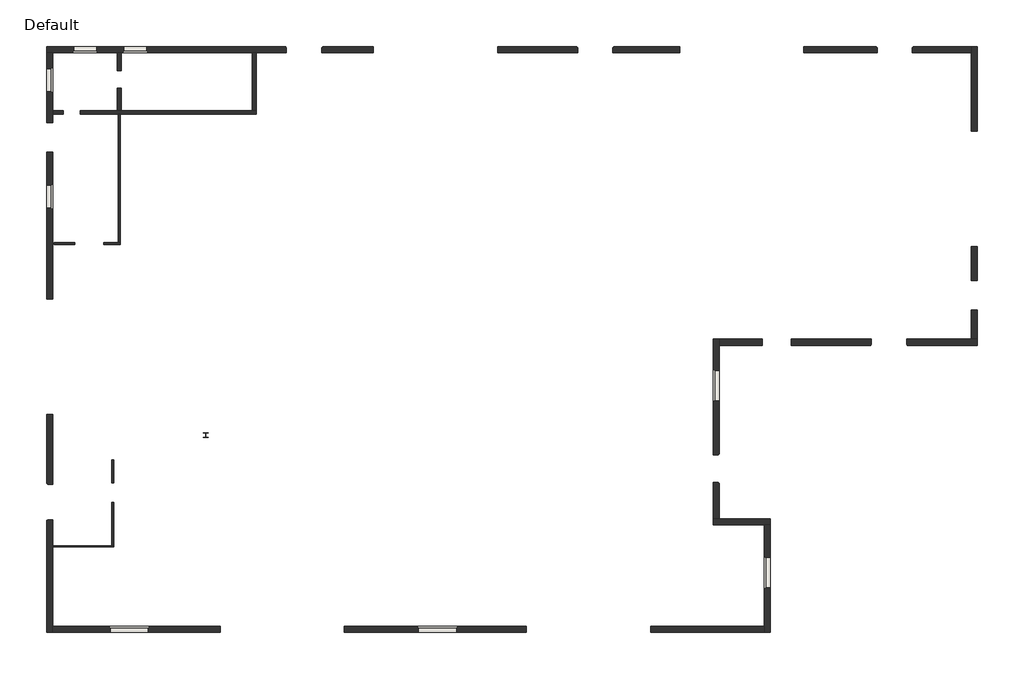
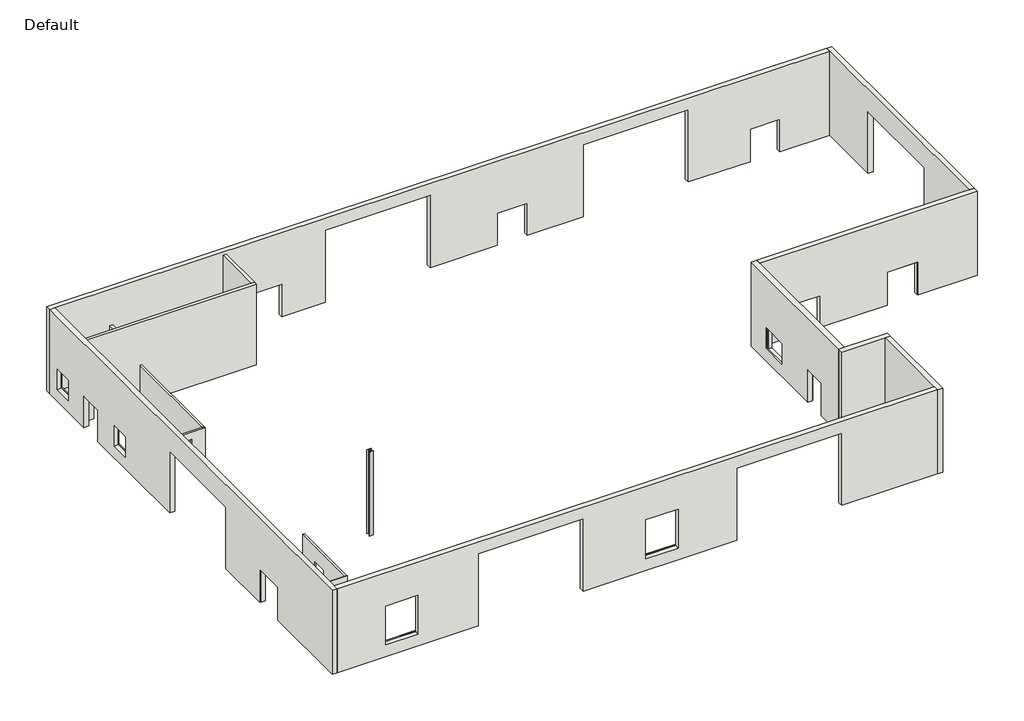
# One storey: 15 walls, 1 column.
"""IFC4 building model written with IfcOpenShell, lengths in millimetres."""

import ifcopenshell
import ifcopenshell.guid

model = None  # the IFC model being written
_history = None  # IfcOwnerHistory: only IFC2X3 demands one
_inside = {}  # id of a spatial element -> (the spatial element, [elements in it])
_under = {}  # id of a project, library or spatial element -> (it, [spatial elements below it])
_declared = {}  # id of a project -> (the project, [libraries it declares])
_typed = {}  # id of a type object -> (the type object, [elements of that type])
_made_of = {}  # id of a material, layer set ... -> (it, [elements and type objects made of it])


def new_model(schema):
    """Start an empty IFC model of exactly this schema.

    Asked for "IFC4X3", IfcOpenShell would pick the latest addendum, in which some entities
    have other attributes; the version numbers below select the first issue.
    IFC2X3 requires an IfcOwnerHistory on every rooted entity: one is made here for all.
    """
    global model, _history
    if schema == "IFC4X3":
        model = ifcopenshell.file(schema_version=(4, 3, 0, 0))
    else:
        model = ifcopenshell.file(schema=schema)
    _inside.clear()
    _under.clear()
    _declared.clear()
    _typed.clear()
    _made_of.clear()
    _history = None
    if model.schema == "IFC2X3":
        org = make("IfcOrganization", Name="unknown")
        user = make(
            "IfcPersonAndOrganization",
            ThePerson=make("IfcPerson", FamilyName="unknown"),
            TheOrganization=org,
        )
        app = make(
            "IfcApplication",
            ApplicationDeveloper=org,
            Version="unknown",
            ApplicationFullName="unknown",
            ApplicationIdentifier="unknown",
        )
        _history = make(
            "IfcOwnerHistory",
            OwningUser=user,
            OwningApplication=app,
            ChangeAction="ADDED",
            CreationDate=0,
        )
    return model


def make(cls, **values):
    """One entity of the class cls with the attributes given. An attribute that is None is left unset."""
    return model.create_entity(
        cls, **{name: value for name, value in values.items() if value is not None}
    )


def rooted(cls, **values):
    """An entity with a GlobalId (a new one), such as an element, a storey or a relation."""
    return make(cls, GlobalId=ifcopenshell.guid.new(), OwnerHistory=_history, **values)


def si_unit(unit_type, name, prefix=None):
    """IfcSIUnit, for example si_unit("LENGTHUNIT", "METRE", prefix="MILLI")."""
    return make("IfcSIUnit", UnitType=unit_type, Prefix=prefix, Name=name)


def assignment(units):
    """IfcUnitAssignment: the units of a project."""
    return None if units is None else make("IfcUnitAssignment", Units=units)


def point(xyz):
    """IfcCartesianPoint."""
    return None if xyz is None else make("IfcCartesianPoint", Coordinates=xyz)


def direction(xyz):
    """IfcDirection."""
    return None if xyz is None else make("IfcDirection", DirectionRatios=xyz)


def frame(location, z_axis=None, x_axis=None):
    """IfcAxis2Placement3D, a coordinate frame: its origin and axes. An axis left out is left unset."""
    return make(
        "IfcAxis2Placement3D",
        Location=point(location),
        Axis=direction(z_axis),
        RefDirection=direction(x_axis),
    )


def frame_2d(location, x_axis=None):
    """IfcAxis2Placement2D, a coordinate frame in the plane: its origin and x axis."""
    return make(
        "IfcAxis2Placement2D", Location=point(location), RefDirection=direction(x_axis)
    )


def origin():
    """The frame at (0, 0, 0) with its axes left unset."""
    return frame((0.0, 0.0, 0.0))


def origin_with_axes():
    """The frame at (0, 0, 0) with the z axis (0, 0, 1) and the x axis (1, 0, 0) written out."""
    return frame((0.0, 0.0, 0.0), z_axis=(0.0, 0.0, 1.0), x_axis=(1.0, 0.0, 0.0))


def place(relative_to, where):
    """IfcLocalPlacement: puts the frame where relative to a parent placement (None: the world)."""
    return make(
        "IfcLocalPlacement", PlacementRelTo=relative_to, RelativePlacement=where
    )


def context(
    kind, dimensions, precision=None, world=None, true_north=None, identifier=None
):
    """IfcGeometricRepresentationContext, for example the 3D "Model" context."""
    return make(
        "IfcGeometricRepresentationContext",
        ContextIdentifier=identifier,
        ContextType=kind,
        CoordinateSpaceDimension=dimensions,
        Precision=precision,
        WorldCoordinateSystem=world,
        TrueNorth=true_north,
    )


def project(units=None, contexts=None):
    """IfcProject with its units and contexts."""
    return rooted(
        "IfcProject",
        Name="project",
        RepresentationContexts=contexts,
        UnitsInContext=assignment(units),
    )


def spatial(cls, under=None, at=None, **own):
    """A site, building, storey or space (cls), placed at a placement, below another one or the project."""
    s = rooted(cls, ObjectPlacement=at, **own)
    if under is not None:
        _under.setdefault(under.id(), (under, []))[1].append(s)
    return s


def polyline(points):
    """IfcPolyline through the points."""
    return make("IfcPolyline", Points=[point(p) for p in points])


def circle_curve(where, radius):
    """IfcCircle in the frame where."""
    return make("IfcCircle", Position=where, Radius=radius)


def trimmed(basis, trim1, trim2, sense, master):
    """IfcTrimmedCurve: the piece of a basis curve between two trims."""
    return make(
        "IfcTrimmedCurve",
        BasisCurve=basis,
        Trim1=trim1,
        Trim2=trim2,
        SenseAgreement=sense,
        MasterRepresentation=master,
    )


def segment(curve, same_sense, transition):
    """IfcCompositeCurveSegment."""
    return make(
        "IfcCompositeCurveSegment",
        Transition=transition,
        SameSense=same_sense,
        ParentCurve=curve,
    )


def composite_curve(segments, self_intersect=None):
    """IfcCompositeCurve: segments joined end to end."""
    return make("IfcCompositeCurve", Segments=segments, SelfIntersect=self_intersect)


def outline(outer, holes=None, kind="AREA"):
    """IfcArbitraryClosedProfileDef: a profile drawn as a closed curve; with holes, ...WithVoids."""
    if holes is None:
        return make("IfcArbitraryClosedProfileDef", ProfileType=kind, OuterCurve=outer)
    return make(
        "IfcArbitraryProfileDefWithVoids",
        ProfileType=kind,
        OuterCurve=outer,
        InnerCurves=holes,
    )


def extrude(swept, where, along, depth):
    """IfcExtrudedAreaSolid: the profile swept, set in the frame where, extruded along a direction by depth."""
    return make(
        "IfcExtrudedAreaSolid",
        SweptArea=swept,
        Position=where,
        ExtrudedDirection=direction(along),
        Depth=depth,
    )


def faces_of(points, faces, orient=None, outer=None):
    """IfcFace entities. A face is a list of loops; a loop is a list of indices into points, from 0.

    orient and outer hold one flag for each loop. By default every Orientation is true, the
    first loop of a face is its IfcFaceOuterBound and the others are IfcFaceBound.
    """
    made = []
    for i, loops in enumerate(faces):
        bounds = []
        for j, loop in enumerate(loops):
            is_outer = j == 0 if outer is None else outer[i][j]
            bounds.append(
                make(
                    "IfcFaceOuterBound" if is_outer else "IfcFaceBound",
                    Bound=make("IfcPolyLoop", Polygon=[points[k] for k in loop]),
                    Orientation=True if orient is None else orient[i][j],
                )
            )
        made.append(make("IfcFace", Bounds=bounds))
    return made


def faceted_brep(points, faces, orient=None, outer=None, voids=None):
    """IfcFacetedBrep: a solid bounded by flat faces; with voids (closed shells), ...WithVoids."""
    shared = [point(p) for p in points]
    hull = make("IfcClosedShell", CfsFaces=faces_of(shared, faces, orient, outer))
    if voids is None:
        return make("IfcFacetedBrep", Outer=hull)
    return make(
        "IfcFacetedBrepWithVoids",
        Outer=hull,
        Voids=[
            make(cls, CfsFaces=faces_of(shared, fs, o, b)) for cls, fs, o, b in voids
        ],
    )


def shape(context_of_items, identifier, shape_type, items):
    """IfcShapeRepresentation: the items that make up one representation, for example the "Body"."""
    return make(
        "IfcShapeRepresentation",
        ContextOfItems=context_of_items,
        RepresentationIdentifier=identifier,
        RepresentationType=shape_type,
        Items=items,
    )


def source(mapping_origin, context_of_items, identifier, shape_type, items):
    """IfcRepresentationMap: a shape defined once, which mapped items show again and again."""
    return make(
        "IfcRepresentationMap",
        MappingOrigin=mapping_origin,
        MappedRepresentation=shape(context_of_items, identifier, shape_type, items),
    )


def transform(
    local_origin,
    x_axis=None,
    y_axis=None,
    z_axis=None,
    scale=None,
    scale2=None,
    scale3=None,
    uniform=True,
):
    """IfcCartesianTransformationOperator3D, or its non-uniform kind. x_axis, y_axis, z_axis: its Axis1, 2, 3."""
    if uniform:
        return make(
            "IfcCartesianTransformationOperator3D",
            Axis1=direction(x_axis),
            Axis2=direction(y_axis),
            LocalOrigin=point(local_origin),
            Scale=scale,
            Axis3=direction(z_axis),
        )
    return make(
        "IfcCartesianTransformationOperator3DnonUniform",
        Axis1=direction(x_axis),
        Axis2=direction(y_axis),
        LocalOrigin=point(local_origin),
        Scale=scale,
        Axis3=direction(z_axis),
        Scale2=scale2,
        Scale3=scale3,
    )


def mapped(mapping_source, mapping_target):
    """IfcMappedItem: shows the shape of a source again, moved by a transform."""
    return make(
        "IfcMappedItem", MappingSource=mapping_source, MappingTarget=mapping_target
    )


def made_of(thing, what):
    """Note that an element or type object is made of a material, layer set ...; save() writes the relation."""
    if what is not None:
        _made_of.setdefault(what.id(), (what, []))[1].append(thing)
    return thing


def element(
    cls,
    number,
    at=None,
    inside=None,
    cuts=None,
    type_object=None,
    material=None,
    context=None,
    identifier="Body",
    shape_type=None,
    held_by="IfcProductDefinitionShape",
    body=None,
    shapes=None,
    **own,
):
    """One element of the class cls, such as IfcWall. Its Tag is "e" and its number.

    at: its placement. inside: the storey or other place that contains it. cuts: it is an
    opening in that element (IfcRelVoidsElement). A single representation is given by context,
    identifier, shape_type and body (its items); several are given by shapes. held_by: the class
    of the entity that holds the representations. save() writes the other relations.
    """
    e = rooted(cls, Tag="e%d" % number, ObjectPlacement=at, **own)
    if body is not None:
        shapes = [shape(context, identifier, shape_type, body)]
    if shapes is not None:
        e.Representation = make(held_by, Representations=shapes)
    if inside is not None:
        _inside.setdefault(inside.id(), (inside, []))[1].append(e)
    if cuts is not None:
        rooted(
            "IfcRelVoidsElement", RelatingBuildingElement=cuts, RelatedOpeningElement=e
        )
    if type_object is not None:
        _typed.setdefault(type_object.id(), (type_object, []))[1].append(e)
    return made_of(e, material)


def aggregate(whole, parts):
    """IfcRelAggregates: a whole, such as a stair, and the parts it consists of."""
    return rooted("IfcRelAggregates", RelatingObject=whole, RelatedObjects=parts)


def save(model, path):
    """Write the relations noted so far, then the file.

    IfcRelAggregates (storeys below a building ...), IfcRelContainedInSpatialStructure (elements
    in a storey), IfcRelDefinesByType, IfcRelAssociatesMaterial and IfcRelDeclares: one each for
    every whole, place, type object, material and project.
    """
    for whole, parts in _under.values():
        aggregate(whole, parts)
    for where, things in _inside.values():
        rooted(
            "IfcRelContainedInSpatialStructure",
            RelatedElements=things,
            RelatingStructure=where,
        )
    for kind, things in _typed.values():
        rooted("IfcRelDefinesByType", RelatedObjects=things, RelatingType=kind)
    for what, things in _made_of.values():
        rooted("IfcRelAssociatesMaterial", RelatedObjects=things, RelatingMaterial=what)
    for by, libraries in _declared.values():
        rooted("IfcRelDeclares", RelatingContext=by, RelatedDefinitions=libraries)
    model.write(path)


def hea500_374ea02b(model_context):
    return source(origin(), model_context, "Body", "SweptSolid", [
        extrude(outline(composite_curve([segment(polyline([(130.0, 125.0), (130.0, 112.5), (27.75, 112.5)]), True, "CONTINUOUS"), segment(trimmed(circle_curve(frame_2d((27.75, 88.5)), 24.0), [point((27.75, 112.5))], [point((3.75, 88.5))], True, "CARTESIAN"), True, "CONTINUOUS"), segment(polyline([(3.75, 88.5), (3.75, -88.5)]), True, "CONTINUOUS"), segment(trimmed(circle_curve(frame_2d((27.75, -88.5)), 24.0), [point((3.75, -88.5))], [point((27.75, -112.5))], True, "CARTESIAN"), True, "CONTINUOUS"), segment(polyline([(27.75, -112.5), (130.0, -112.5), (130.0, -125.0), (-130.0, -125.0), (-130.0, -112.5), (-27.75, -112.5)]), True, "CONTINUOUS"), segment(trimmed(circle_curve(frame_2d((-27.75, -88.5)), 24.0), [point((-27.75, -112.5))], [point((-3.75, -88.5))], True, "CARTESIAN"), True, "CONTINUOUS"), segment(polyline([(-3.75, -88.5), (-3.75, 88.5)]), True, "CONTINUOUS"), segment(trimmed(circle_curve(frame_2d((-27.75, 88.5)), 24.0), [point((-3.75, 88.5))], [point((-27.75, 112.5))], True, "CARTESIAN"), True, "CONTINUOUS"), segment(polyline([(-27.75, 112.5), (-130.0, 112.5), (-130.0, 125.0), (130.0, 125.0)]), True, "CONTINUOUS")], self_intersect=False)), origin_with_axes(), (0.0, 0.0, 1.0), 5500.0),
    ])


model = new_model("IFC4")

# Units and contexts
model_context = context("Model", 3, world=origin())
ifc_project = project(units=[si_unit("LENGTHUNIT", "METRE", prefix="MILLI")], contexts=[model_context])

# Site, building, storey
site = spatial("IfcSite", under=ifc_project)
building = spatial("IfcBuilding", under=site)
storey = spatial("IfcBuildingStorey", under=building, Name="Default", Elevation=0.0)

# Column
placement = place(None, origin())
hea500_shape = hea500_374ea02b(model_context)
element("IfcColumn", 1, ObjectType="Poteau HE-A : HEA500", at=placement, inside=storey, context=model_context, shape_type="MappedRepresentation", body=[
    mapped(hea500_shape, transform((8000.0, 10000.0, 0.0), x_axis=(1.0, 0.0, 0.0), y_axis=(0.0, 1.0, 0.0), z_axis=(0.0, 0.0, 1.0))),
])

# Walls
element("IfcWall", 2, ObjectType="Ext. Parpaing 20 + Isolant ext", at=placement, inside=storey, context=model_context, shape_type="Brep", body=[
    faceted_brep([(-310.0, -310.0, 5500.0), (-310.0, 29990.0, 5500.0), (-310.0, 29990.0, 0.0), (-310.0, 26316.9923628, 0.0), (-310.0, 26316.9923628, 2060.0), (-310.0, 24796.9923628, 2060.0), (-310.0, 24796.9923628, 0.0), (-310.0, 17118.0018852, 0.0), (-310.0, 17118.0018852, 4015.0), (-310.0, 11088.0018852, 4015.0), (-310.0, 11088.0018852, 0.0), (-310.0, 7468.0018852, 0.0), (-310.0, 7468.0018852, 2150.0), (-310.0, 5538.0018852, 2150.0), (-310.0, 5538.0018852, 0.0), (-310.0, -310.0, 0.0), (-310.0, 21856.9923628, 2100.0), (-310.0, 21856.9923628, 759.7749835), (-310.0, 23056.9923628, 759.7749835), (-310.0, 23056.9923628, 2100.0), (-310.0, 27956.9923628, 2100.0), (-310.0, 27956.9923628, 759.7749835), (-310.0, 29156.9923628, 759.7749835), (-310.0, 29156.9923628, 2100.0), (10.0, 29990.0, 5500.0), (10.0, 10.0, 5500.0), (10.0, -310.0, 5500.0), (10.0, -310.0, 0.0), (10.0, 10.0, 0.0), (10.0, 4163.0018852, 0.0), (10.0, 4203.0018852, 0.0), (10.0, 5578.0018852, 0.0), (10.0, 5578.0018852, 2110.0), (10.0, 7428.0018852, 2110.0), (10.0, 7428.0018852, 0.0), (10.0, 11088.0018852, 0.0), (10.0, 11088.0018852, 4015.0), (10.0, 17118.0018852, 4015.0), (10.0, 17118.0018852, 0.0), (10.0, 24796.9923628, 0.0), (10.0, 24796.9923628, 2060.0), (10.0, 26316.9923628, 2060.0), (10.0, 26316.9923628, 0.0), (10.0, 26765.9166667, 0.0), (10.0, 26965.9166667, 0.0), (10.0, 29990.0, 0.0), (10.0, 23106.9923628, 800.0), (10.0, 21806.9923628, 800.0), (10.0, 21806.9923628, 2150.0), (10.0, 23106.9923628, 2150.0), (10.0, 29206.9923628, 800.0), (10.0, 27906.9923628, 800.0), (10.0, 27906.9923628, 2150.0), (10.0, 29206.9923628, 2150.0), (-260.0, 5538.0018852, 0.0), (-260.0, 5578.0018852, 0.0), (-260.0, 7428.0018852, 0.0), (-260.0, 7468.0018852, 0.0), (-70.0, 21856.9923628, 800.0), (-70.0, 21856.9923628, 785.0), (-90.0, 21856.9923628, 2100.0), (-90.0, 21856.9923628, 800.0), (-70.0, 23056.9923628, 785.0), (-70.0, 23056.9923628, 800.0), (-90.0, 23056.9923628, 800.0), (-90.0, 23056.9923628, 2100.0), (-90.0, 21846.9923628, 800.0), (-60.0, 21846.9923628, 800.0), (-60.0, 21806.9923628, 800.0), (-60.0, 23106.9923628, 800.0), (-60.0, 23066.9923628, 800.0), (-90.0, 23066.9923628, 800.0), (-60.0, 21806.9923628, 2150.0), (-60.0, 21846.9923628, 2110.0), (-60.0, 23066.9923628, 2110.0), (-60.0, 23106.9923628, 2150.0), (-90.0, 21846.9923628, 2110.0), (-90.0, 23066.9923628, 2110.0), (-70.0, 27956.9923628, 800.0), (-70.0, 27956.9923628, 785.0), (-90.0, 27956.9923628, 2100.0), (-90.0, 27956.9923628, 800.0), (-70.0, 29156.9923628, 785.0), (-70.0, 29156.9923628, 800.0), (-90.0, 29156.9923628, 800.0), (-90.0, 29156.9923628, 2100.0), (-90.0, 27946.9923628, 800.0), (-60.0, 27946.9923628, 800.0), (-60.0, 27906.9923628, 800.0), (-60.0, 29206.9923628, 800.0), (-60.0, 29166.9923628, 800.0), (-90.0, 29166.9923628, 800.0), (-60.0, 27906.9923628, 2150.0), (-60.0, 27946.9923628, 2110.0), (-60.0, 29166.9923628, 2110.0), (-60.0, 29206.9923628, 2150.0), (-90.0, 27946.9923628, 2110.0), (-90.0, 29166.9923628, 2110.0), (-260.0, 5578.0018852, 2110.0), (-260.0, 7428.0018852, 2110.0), (-260.0, 5538.0018852, 2150.0), (-260.0, 7468.0018852, 2150.0)], [[[0, 1, 2, 3, 4, 5, 6, 7, 8, 9, 10, 11, 12, 13, 14, 15], [16, 17, 18, 19], [20, 21, 22, 23]], [[24, 25, 26, 27, 28, 29, 30, 31, 32, 33, 34, 35, 36, 37, 38, 39, 40, 41, 42, 43, 44, 45], [46, 47, 48, 49], [50, 51, 52, 53]], [[2, 45, 44, 43, 42, 3]], [[27, 15, 14, 54, 55, 31, 30, 29, 28]], [[6, 39, 38, 7]], [[34, 56, 57, 11, 10, 35]], [[1, 0, 26, 25, 24]], [[2, 1, 24, 45]], [[0, 15, 27, 26]], [[41, 4, 3, 42]], [[4, 41, 40, 5]], [[5, 40, 39, 6]], [[58, 59, 17, 16, 60, 61]], [[62, 63, 64, 65, 19, 18]], [[59, 62, 18, 17]], [[59, 58, 63, 62]], [[16, 19, 65, 60]], [[63, 58, 61, 66, 67, 68, 47, 46, 69, 70, 71, 64]], [[47, 68, 72, 48]], [[68, 67, 73, 74, 70, 69, 75, 72]], [[67, 66, 76, 73]], [[66, 61, 60, 65, 64, 71, 77, 76]], [[48, 72, 75, 49]], [[74, 73, 76, 77]], [[75, 69, 46, 49]], [[70, 74, 77, 71]], [[78, 79, 21, 20, 80, 81]], [[82, 83, 84, 85, 23, 22]], [[79, 82, 22, 21]], [[79, 78, 83, 82]], [[20, 23, 85, 80]], [[83, 78, 81, 86, 87, 88, 51, 50, 89, 90, 91, 84]], [[51, 88, 92, 52]], [[88, 87, 93, 94, 90, 89, 95, 92]], [[87, 86, 96, 93]], [[86, 81, 80, 85, 84, 91, 97, 96]], [[52, 92, 95, 53]], [[94, 93, 96, 97]], [[95, 89, 50, 53]], [[90, 94, 97, 91]], [[98, 99, 33, 32]], [[55, 98, 32, 31]], [[99, 56, 34, 33]], [[99, 98, 55, 54, 100, 101, 57, 56]], [[100, 54, 14, 13]], [[101, 100, 13, 12]], [[57, 101, 12, 11]], [[8, 37, 36, 9]], [[9, 36, 35, 10]], [[37, 8, 7, 38]]]),
])
element("IfcWall", 3, ObjectType="Ext. Parpaing 20 + Isolant ext", at=placement, inside=storey, context=model_context, shape_type="Brep", body=[
    faceted_brep([(47990.0, 15010.0, 5500.0), (47990.0, 29990.0, 5500.0), (47990.0, 30310.0, 5500.0), (47990.0, 30310.0, 0.0), (47990.0, 29990.0, 0.0), (47990.0, 25890.0, 0.0), (47990.0, 25890.0, 4015.0), (47990.0, 19860.0, 4015.0), (47990.0, 19860.0, 0.0), (47990.0, 18070.0, 0.0), (47990.0, 18070.0, 2060.0), (47990.0, 16550.0, 2060.0), (47990.0, 16550.0, 0.0), (47990.0, 15010.0, 0.0), (48310.0, 30310.0, 5500.0), (48310.0, 15010.0, 5500.0), (48310.0, 15010.0, 0.0), (48310.0, 16550.0, 0.0), (48310.0, 16550.0, 2060.0), (48310.0, 18070.0, 2060.0), (48310.0, 18070.0, 0.0), (48310.0, 19860.0, 0.0), (48310.0, 19860.0, 4015.0), (48310.0, 25890.0, 4015.0), (48310.0, 25890.0, 0.0), (48310.0, 30310.0, 0.0)], [[[0, 1, 2, 3, 4, 5, 6, 7, 8, 9, 10, 11, 12, 13]], [[14, 15, 16, 17, 18, 19, 20, 21, 22, 23, 24, 25]], [[16, 13, 12, 17]], [[3, 25, 24, 5, 4]], [[8, 21, 20, 9]], [[2, 1, 0, 15, 14]], [[0, 13, 16, 15]], [[3, 2, 14, 25]], [[22, 7, 6, 23]], [[23, 6, 5, 24]], [[7, 22, 21, 8]], [[11, 18, 17, 12]], [[18, 11, 10, 19]], [[19, 10, 9, 20]]]),
])
element("IfcWall", 4, ObjectType="Ext. Parpaing 20 + Isolant ext", at=placement, inside=storey, context=model_context, shape_type="Brep", body=[
    faceted_brep([(10.0, 10.0, 5500.0), (37169.4829967, 10.0, 5500.0), (37169.4829967, 10.0, 0.0), (31250.0, 10.0, 0.0), (31250.0, 10.0, 4728.16086), (24750.0, 10.0, 4728.16086), (24750.0, 10.0, 0.0), (15250.0, 10.0, 0.0), (15250.0, 10.0, 4728.16086), (8750.0, 10.0, 4728.16086), (8750.0, 10.0, 0.0), (10.0, 10.0, 0.0), (2960.0, 10.0, 800.0), (5060.0, 10.0, 800.0), (5060.0, 10.0, 3350.0), (2960.0, 10.0, 3350.0), (19060.0, 10.0, 800.0), (21160.0, 10.0, 800.0), (21160.0, 10.0, 3350.0), (19060.0, 10.0, 3350.0), (37169.4829967, -310.0, 5500.0), (10.0, -310.0, 5500.0), (10.0, -310.0, 0.0), (8750.0, -310.0, 0.0), (8750.0, -310.0, 4728.16086), (15250.0, -310.0, 4728.16086), (15250.0, -310.0, 0.0), (24750.0, -310.0, 0.0), (24750.0, -310.0, 4728.16086), (31250.0, -310.0, 4728.16086), (31250.0, -310.0, 0.0), (37169.4829967, -310.0, 0.0), (5010.0, -310.0, 3300.0), (5010.0, -310.0, 759.7749835), (3010.0, -310.0, 759.7749835), (3010.0, -310.0, 3300.0), (21110.0, -310.0, 3300.0), (21110.0, -310.0, 759.7749835), (19110.0, -310.0, 759.7749835), (19110.0, -310.0, 3300.0), (5010.0, -70.0, 800.0), (5010.0, -70.0, 785.0), (5010.0, -90.0, 3300.0), (5010.0, -90.0, 800.0), (3010.0, -70.0, 785.0), (3010.0, -70.0, 800.0), (3010.0, -90.0, 800.0), (3010.0, -90.0, 3300.0), (5020.0, -90.0, 800.0), (5020.0, -60.0, 800.0), (5060.0, -60.0, 800.0), (2960.0, -60.0, 800.0), (3000.0, -60.0, 800.0), (3000.0, -90.0, 800.0), (5060.0, -60.0, 3350.0), (5020.0, -60.0, 3310.0), (3000.0, -60.0, 3310.0), (2960.0, -60.0, 3350.0), (5020.0, -90.0, 3310.0), (3000.0, -90.0, 3310.0), (21110.0, -70.0, 800.0), (21110.0, -70.0, 785.0), (21110.0, -90.0, 3300.0), (21110.0, -90.0, 800.0), (19110.0, -70.0, 785.0), (19110.0, -70.0, 800.0), (19110.0, -90.0, 800.0), (19110.0, -90.0, 3300.0), (21120.0, -90.0, 800.0), (21120.0, -60.0, 800.0), (21160.0, -60.0, 800.0), (19060.0, -60.0, 800.0), (19100.0, -60.0, 800.0), (19100.0, -90.0, 800.0), (21160.0, -60.0, 3350.0), (21120.0, -60.0, 3310.0), (19100.0, -60.0, 3310.0), (19060.0, -60.0, 3350.0), (21120.0, -90.0, 3310.0), (19100.0, -90.0, 3310.0)], [[[0, 1, 2, 3, 4, 5, 6, 7, 8, 9, 10, 11], [12, 13, 14, 15], [16, 17, 18, 19]], [[20, 21, 22, 23, 24, 25, 26, 27, 28, 29, 30, 31], [32, 33, 34, 35], [36, 37, 38, 39]], [[2, 31, 30, 3]], [[22, 11, 10, 23]], [[26, 7, 6, 27]], [[1, 0, 21, 20]], [[2, 1, 20, 31]], [[0, 11, 22, 21]], [[40, 41, 33, 32, 42, 43]], [[44, 45, 46, 47, 35, 34]], [[41, 44, 34, 33]], [[41, 40, 45, 44]], [[32, 35, 47, 42]], [[45, 40, 43, 48, 49, 50, 13, 12, 51, 52, 53, 46]], [[13, 50, 54, 14]], [[50, 49, 55, 56, 52, 51, 57, 54]], [[49, 48, 58, 55]], [[48, 43, 42, 47, 46, 53, 59, 58]], [[14, 54, 57, 15]], [[56, 55, 58, 59]], [[57, 51, 12, 15]], [[52, 56, 59, 53]], [[9, 24, 23, 10]], [[24, 9, 8, 25]], [[25, 8, 7, 26]], [[60, 61, 37, 36, 62, 63]], [[64, 65, 66, 67, 39, 38]], [[61, 64, 38, 37]], [[61, 60, 65, 64]], [[36, 39, 67, 62]], [[65, 60, 63, 68, 69, 70, 17, 16, 71, 72, 73, 66]], [[17, 70, 74, 18]], [[70, 69, 75, 76, 72, 71, 77, 74]], [[69, 68, 78, 75]], [[68, 63, 62, 67, 66, 73, 79, 78]], [[18, 74, 77, 19]], [[76, 75, 78, 79]], [[77, 71, 16, 19]], [[72, 76, 79, 73]], [[5, 28, 27, 6]], [[28, 5, 4, 29]], [[29, 4, 3, 30]]]),
])
element("IfcWall", 5, ObjectType="Ext. Parpaing 20 + Isolant ext", at=placement, inside=storey, context=model_context, shape_type="Brep", body=[
    faceted_brep([(-310.0, 30310.0, 5500.0), (47990.0, 30310.0, 5500.0), (47990.0, 30310.0, 0.0), (44955.0, 30310.0, 0.0), (44955.0, 30310.0, 2150.0), (43025.0, 30310.0, 2150.0), (43025.0, 30310.0, 0.0), (39250.0, 30310.0, 0.0), (39250.0, 30310.0, 4728.16086), (32750.0, 30310.0, 4728.16086), (32750.0, 30310.0, 0.0), (29315.0, 30310.0, 0.0), (29315.0, 30310.0, 2150.0), (27385.0, 30310.0, 2150.0), (27385.0, 30310.0, 0.0), (23250.0, 30310.0, 0.0), (23250.0, 30310.0, 4728.16086), (16750.0, 30310.0, 4728.16086), (16750.0, 30310.0, 0.0), (14104.1961953, 30310.0, 0.0), (14104.1961953, 30310.0, 2150.0), (12174.1961953, 30310.0, 2150.0), (12174.1961953, 30310.0, 0.0), (-310.0, 30310.0, 0.0), (1100.2891615, 30310.0, 2100.0), (1100.2891615, 30310.0, 759.7749835), (2300.2891615, 30310.0, 759.7749835), (2300.2891615, 30310.0, 2100.0), (3730.578323, 30310.0, 2100.0), (3730.578323, 30310.0, 759.7749835), (4930.578323, 30310.0, 759.7749835), (4930.578323, 30310.0, 2100.0), (47990.0, 29990.0, 5500.0), (10.0, 29990.0, 5500.0), (-310.0, 29990.0, 5500.0), (-310.0, 29990.0, 0.0), (10.0, 29990.0, 0.0), (3390.578323, 29990.0, 0.0), (3590.578323, 29990.0, 0.0), (10439.1961953, 29990.0, 0.0), (10639.1961953, 29990.0, 0.0), (12214.1961953, 29990.0, 0.0), (12214.1961953, 29990.0, 2110.0), (14064.1961953, 29990.0, 2110.0), (14064.1961953, 29990.0, 0.0), (16750.0, 29990.0, 0.0), (16750.0, 29990.0, 4728.16086), (23250.0, 29990.0, 4728.16086), (23250.0, 29990.0, 0.0), (27425.0, 29990.0, 0.0), (27425.0, 29990.0, 2110.0), (29275.0, 29990.0, 2110.0), (29275.0, 29990.0, 0.0), (32750.0, 29990.0, 0.0), (32750.0, 29990.0, 4728.16086), (39250.0, 29990.0, 4728.16086), (39250.0, 29990.0, 0.0), (43065.0, 29990.0, 0.0), (43065.0, 29990.0, 2110.0), (44915.0, 29990.0, 2110.0), (44915.0, 29990.0, 0.0), (47990.0, 29990.0, 0.0), (2350.2891615, 29990.0, 800.0), (1050.2891615, 29990.0, 800.0), (1050.2891615, 29990.0, 2150.0), (2350.2891615, 29990.0, 2150.0), (4980.578323, 29990.0, 800.0), (3680.578323, 29990.0, 800.0), (3680.578323, 29990.0, 2150.0), (4980.578323, 29990.0, 2150.0), (44915.0, 30260.0, 0.0), (44955.0, 30260.0, 0.0), (12174.1961953, 30260.0, 0.0), (12214.1961953, 30260.0, 0.0), (14064.1961953, 30260.0, 0.0), (14104.1961953, 30260.0, 0.0), (27385.0, 30260.0, 0.0), (27425.0, 30260.0, 0.0), (29275.0, 30260.0, 0.0), (29315.0, 30260.0, 0.0), (43025.0, 30260.0, 0.0), (43065.0, 30260.0, 0.0), (1100.2891615, 30070.0, 800.0), (1100.2891615, 30070.0, 785.0), (1100.2891615, 30090.0, 2100.0), (1100.2891615, 30090.0, 800.0), (2300.2891615, 30070.0, 785.0), (2300.2891615, 30070.0, 800.0), (2300.2891615, 30090.0, 800.0), (2300.2891615, 30090.0, 2100.0), (1090.2891615, 30090.0, 800.0), (1090.2891615, 30060.0, 800.0), (1050.2891615, 30060.0, 800.0), (2350.2891615, 30060.0, 800.0), (2310.2891615, 30060.0, 800.0), (2310.2891615, 30090.0, 800.0), (1050.2891615, 30060.0, 2150.0), (1090.2891615, 30060.0, 2110.0), (2310.2891615, 30060.0, 2110.0), (2350.2891615, 30060.0, 2150.0), (1090.2891615, 30090.0, 2110.0), (2310.2891615, 30090.0, 2110.0), (3730.578323, 30070.0, 800.0), (3730.578323, 30070.0, 785.0), (3730.578323, 30090.0, 2100.0), (3730.578323, 30090.0, 800.0), (4930.578323, 30070.0, 785.0), (4930.578323, 30070.0, 800.0), (4930.578323, 30090.0, 800.0), (4930.578323, 30090.0, 2100.0), (3720.578323, 30090.0, 800.0), (3720.578323, 30060.0, 800.0), (3680.578323, 30060.0, 800.0), (4980.578323, 30060.0, 800.0), (4940.578323, 30060.0, 800.0), (4940.578323, 30090.0, 800.0), (3680.578323, 30060.0, 2150.0), (3720.578323, 30060.0, 2110.0), (4940.578323, 30060.0, 2110.0), (4980.578323, 30060.0, 2150.0), (3720.578323, 30090.0, 2110.0), (4940.578323, 30090.0, 2110.0), (43065.0, 30260.0, 2110.0), (44915.0, 30260.0, 2110.0), (43025.0, 30260.0, 2150.0), (44955.0, 30260.0, 2150.0), (27425.0, 30260.0, 2110.0), (29275.0, 30260.0, 2110.0), (27385.0, 30260.0, 2150.0), (29315.0, 30260.0, 2150.0), (12214.1961953, 30260.0, 2110.0), (14064.1961953, 30260.0, 2110.0), (12174.1961953, 30260.0, 2150.0), (14104.1961953, 30260.0, 2150.0)], [[[0, 1, 2, 3, 4, 5, 6, 7, 8, 9, 10, 11, 12, 13, 14, 15, 16, 17, 18, 19, 20, 21, 22, 23], [24, 25, 26, 27], [28, 29, 30, 31]], [[32, 33, 34, 35, 36, 37, 38, 39, 40, 41, 42, 43, 44, 45, 46, 47, 48, 49, 50, 51, 52, 53, 54, 55, 56, 57, 58, 59, 60, 61], [62, 63, 64, 65], [66, 67, 68, 69]], [[2, 61, 60, 70, 71, 3]], [[35, 23, 22, 72, 73, 41, 40, 39, 38, 37, 36]], [[18, 45, 44, 74, 75, 19]], [[48, 15, 14, 76, 77, 49]], [[10, 53, 52, 78, 79, 11]], [[56, 7, 6, 80, 81, 57]], [[1, 0, 34, 33, 32]], [[2, 1, 32, 61]], [[0, 23, 35, 34]], [[82, 83, 25, 24, 84, 85]], [[86, 87, 88, 89, 27, 26]], [[83, 86, 26, 25]], [[83, 82, 87, 86]], [[24, 27, 89, 84]], [[87, 82, 85, 90, 91, 92, 63, 62, 93, 94, 95, 88]], [[63, 92, 96, 64]], [[92, 91, 97, 98, 94, 93, 99, 96]], [[91, 90, 100, 97]], [[90, 85, 84, 89, 88, 95, 101, 100]], [[64, 96, 99, 65]], [[98, 97, 100, 101]], [[99, 93, 62, 65]], [[94, 98, 101, 95]], [[102, 103, 29, 28, 104, 105]], [[106, 107, 108, 109, 31, 30]], [[103, 106, 30, 29]], [[103, 102, 107, 106]], [[28, 31, 109, 104]], [[107, 102, 105, 110, 111, 112, 67, 66, 113, 114, 115, 108]], [[67, 112, 116, 68]], [[112, 111, 117, 118, 114, 113, 119, 116]], [[111, 110, 120, 117]], [[110, 105, 104, 109, 108, 115, 121, 120]], [[68, 116, 119, 69]], [[118, 117, 120, 121]], [[119, 113, 66, 69]], [[114, 118, 121, 115]], [[17, 46, 45, 18]], [[46, 17, 16, 47]], [[47, 16, 15, 48]], [[9, 54, 53, 10]], [[54, 9, 8, 55]], [[55, 8, 7, 56]], [[122, 123, 59, 58]], [[81, 122, 58, 57]], [[123, 70, 60, 59]], [[123, 122, 81, 80, 124, 125, 71, 70]], [[124, 80, 6, 5]], [[125, 124, 5, 4]], [[71, 125, 4, 3]], [[126, 127, 51, 50]], [[77, 126, 50, 49]], [[127, 78, 52, 51]], [[127, 126, 77, 76, 128, 129, 79, 78]], [[128, 76, 14, 13]], [[129, 128, 13, 12]], [[79, 129, 12, 11]], [[130, 131, 43, 42]], [[73, 130, 42, 41]], [[131, 74, 44, 43]], [[131, 130, 73, 72, 132, 133, 75, 74]], [[132, 72, 22, 21]], [[133, 132, 21, 20]], [[75, 133, 20, 19]]]),
])
element("IfcWall", 6, ObjectType="Ext. Parpaing 20 + Isolant ext", at=placement, inside=storey, context=model_context, shape_type="Brep", body=[
    faceted_brep([(34498.36989, 5627.0803084, 5500.0), (34498.36989, 15010.0, 5500.0), (34498.36989, 15010.0, 0.0), (34498.36989, 8966.4216335, 0.0), (34498.36989, 8966.4216335, 2110.0), (34498.36989, 7516.4216335, 2110.0), (34498.36989, 7516.4216335, 0.0), (34498.36989, 5627.0803084, 0.0), (34498.36989, 11740.0, 800.0), (34498.36989, 13440.0, 800.0), (34498.36989, 13440.0, 2150.0), (34498.36989, 11740.0, 2150.0), (34818.36989, 15010.0, 5500.0), (34818.36989, 14690.0, 5500.0), (34818.36989, 5627.0803084, 5500.0), (34818.36989, 5627.0803084, 0.0), (34818.36989, 7476.4216335, 0.0), (34818.36989, 7476.4216335, 2150.0), (34818.36989, 9006.4216335, 2150.0), (34818.36989, 9006.4216335, 0.0), (34818.36989, 14690.0, 0.0), (34818.36989, 15010.0, 0.0), (34818.36989, 13390.0, 2100.0), (34818.36989, 13390.0, 759.7749835), (34818.36989, 11790.0, 759.7749835), (34818.36989, 11790.0, 2100.0), (34768.36989, 9006.4216335, 0.0), (34768.36989, 8966.4216335, 0.0), (34768.36989, 7516.4216335, 0.0), (34768.36989, 7476.4216335, 0.0), (34768.36989, 8966.4216335, 2110.0), (34768.36989, 7516.4216335, 2110.0), (34768.36989, 9006.4216335, 2150.0), (34768.36989, 7476.4216335, 2150.0), (34578.36989, 13390.0, 800.0), (34578.36989, 13390.0, 785.0), (34598.36989, 13390.0, 2100.0), (34598.36989, 13390.0, 800.0), (34578.36989, 11790.0, 785.0), (34578.36989, 11790.0, 800.0), (34598.36989, 11790.0, 800.0), (34598.36989, 11790.0, 2100.0), (34598.36989, 13400.0, 800.0), (34568.36989, 13400.0, 800.0), (34568.36989, 13440.0, 800.0), (34568.36989, 11740.0, 800.0), (34568.36989, 11780.0, 800.0), (34598.36989, 11780.0, 800.0), (34568.36989, 13440.0, 2150.0), (34568.36989, 13400.0, 2110.0), (34568.36989, 11780.0, 2110.0), (34568.36989, 11740.0, 2150.0), (34598.36989, 13400.0, 2110.0), (34598.36989, 11780.0, 2110.0)], [[[0, 1, 2, 3, 4, 5, 6, 7], [8, 9, 10, 11]], [[12, 13, 14, 15, 16, 17, 18, 19, 20, 21], [22, 23, 24, 25]], [[2, 21, 20, 19, 26, 27, 3]], [[15, 7, 6, 28, 29, 16]], [[1, 0, 14, 13, 12]], [[2, 1, 12, 21]], [[30, 31, 5, 4]], [[31, 28, 6, 5]], [[27, 30, 4, 3]], [[31, 30, 27, 26, 32, 33, 29, 28]], [[29, 33, 17, 16]], [[33, 32, 18, 17]], [[32, 26, 19, 18]], [[0, 7, 15, 14]], [[34, 35, 23, 22, 36, 37]], [[38, 39, 40, 41, 25, 24]], [[35, 38, 24, 23]], [[35, 34, 39, 38]], [[22, 25, 41, 36]], [[39, 34, 37, 42, 43, 44, 9, 8, 45, 46, 47, 40]], [[9, 44, 48, 10]], [[44, 43, 49, 50, 46, 45, 51, 48]], [[43, 42, 52, 49]], [[42, 37, 36, 41, 40, 47, 53, 52]], [[10, 48, 51, 11]], [[50, 49, 52, 53]], [[51, 45, 8, 11]], [[46, 50, 53, 47]]]),
])
element("IfcWall", 7, ObjectType="Ext. Parpaing 20 + Isolant ext", at=placement, inside=storey, context=model_context, shape_type="Brep", body=[
    faceted_brep([(34818.36989, 15010.0, 5500.0), (47990.0, 15010.0, 5500.0), (48310.0, 15010.0, 5500.0), (48310.0, 15010.0, 0.0), (47990.0, 15010.0, 0.0), (44615.0, 15010.0, 0.0), (44615.0, 15010.0, 2110.0), (42765.0, 15010.0, 2110.0), (42765.0, 15010.0, 0.0), (38578.36989, 15010.0, 0.0), (38578.36989, 15010.0, 2060.0), (37058.36989, 15010.0, 2060.0), (37058.36989, 15010.0, 0.0), (34818.36989, 15010.0, 0.0), (48310.0, 14690.0, 5500.0), (34818.36989, 14690.0, 5500.0), (34818.36989, 14690.0, 0.0), (37058.36989, 14690.0, 0.0), (37058.36989, 14690.0, 2060.0), (38578.36989, 14690.0, 2060.0), (38578.36989, 14690.0, 0.0), (42725.0, 14690.0, 0.0), (42725.0, 14690.0, 2150.0), (44655.0, 14690.0, 2150.0), (44655.0, 14690.0, 0.0), (48310.0, 14690.0, 0.0), (44655.0, 14740.0, 0.0), (44615.0, 14740.0, 0.0), (42765.0, 14740.0, 0.0), (42725.0, 14740.0, 0.0), (44615.0, 14740.0, 2110.0), (42765.0, 14740.0, 2110.0), (44655.0, 14740.0, 2150.0), (42725.0, 14740.0, 2150.0)], [[[0, 1, 2, 3, 4, 5, 6, 7, 8, 9, 10, 11, 12, 13]], [[14, 15, 16, 17, 18, 19, 20, 21, 22, 23, 24, 25]], [[16, 13, 12, 17]], [[3, 25, 24, 26, 27, 5, 4]], [[8, 28, 29, 21, 20, 9]], [[2, 1, 0, 15, 14]], [[0, 13, 16, 15]], [[3, 2, 14, 25]], [[30, 31, 7, 6]], [[27, 30, 6, 5]], [[31, 28, 8, 7]], [[31, 30, 27, 26, 32, 33, 29, 28]], [[32, 26, 24, 23]], [[33, 32, 23, 22]], [[29, 33, 22, 21]], [[11, 18, 17, 12]], [[18, 11, 10, 19]], [[19, 10, 9, 20]]]),
])
element("IfcWall", 8, ObjectType="Ext. Parpaing 20 + Isolant ext", at=placement, inside=storey, context=model_context, shape_type="Brep", body=[
    faceted_brep([(37489.4829967, 5627.0803084, 0.0), (34818.36989, 5627.0803084, 0.0), (34498.36989, 5627.0803084, 0.0), (34498.36989, 5627.0803084, 5500.0), (34818.36989, 5627.0803084, 5500.0), (37489.4829967, 5627.0803084, 5500.0), (37489.4829967, 5307.0803084, 0.0), (37489.4829967, 5307.0803084, 5500.0), (37169.4829967, 5307.0803084, 5500.0), (34498.36989, 5307.0803084, 5500.0), (34498.36989, 5307.0803084, 0.0), (37169.4829967, 5307.0803084, 0.0)], [[[0, 1, 2, 3, 4, 5]], [[6, 7, 8, 9, 10, 11]], [[2, 1, 0, 6, 11, 10]], [[5, 4, 3, 9, 8, 7]], [[0, 5, 7, 6]], [[3, 2, 10, 9]]]),
])
element("IfcWall", 9, ObjectType="Ext. Parpaing 20 + Isolant ext", at=placement, inside=storey, context=model_context, shape_type="Brep", body=[
    faceted_brep([(37169.4829967, 5307.0803084, 0.0), (37169.4829967, 10.0, 0.0), (37169.4829967, -310.0, 0.0), (37169.4829967, -310.0, 5500.0), (37169.4829967, 10.0, 5500.0), (37169.4829967, 5307.0803084, 5500.0), (37169.4829967, 1957.0803084, 800.0), (37169.4829967, 3657.0803084, 800.0), (37169.4829967, 3657.0803084, 2150.0), (37169.4829967, 1957.0803084, 2150.0), (37489.4829967, 5307.0803084, 0.0), (37489.4829967, 5307.0803084, 5500.0), (37489.4829967, -310.0, 5500.0), (37489.4829967, -310.0, 0.0), (37489.4829967, 3607.0803084, 2100.0), (37489.4829967, 3607.0803084, 759.7749835), (37489.4829967, 2007.0803084, 759.7749835), (37489.4829967, 2007.0803084, 2100.0), (37249.4829967, 3607.0803084, 800.0), (37249.4829967, 3607.0803084, 785.0), (37269.4829967, 3607.0803084, 2100.0), (37269.4829967, 3607.0803084, 800.0), (37249.4829967, 2007.0803084, 785.0), (37249.4829967, 2007.0803084, 800.0), (37269.4829967, 2007.0803084, 800.0), (37269.4829967, 2007.0803084, 2100.0), (37269.4829967, 3617.0803084, 800.0), (37239.4829967, 3617.0803084, 800.0), (37239.4829967, 3657.0803084, 800.0), (37239.4829967, 1957.0803084, 800.0), (37239.4829967, 1997.0803084, 800.0), (37269.4829967, 1997.0803084, 800.0), (37239.4829967, 3657.0803084, 2150.0), (37239.4829967, 3617.0803084, 2110.0), (37239.4829967, 1997.0803084, 2110.0), (37239.4829967, 1957.0803084, 2150.0), (37269.4829967, 3617.0803084, 2110.0), (37269.4829967, 1997.0803084, 2110.0)], [[[0, 1, 2, 3, 4, 5], [6, 7, 8, 9]], [[10, 11, 12, 13], [14, 15, 16, 17]], [[2, 1, 0, 10, 13]], [[5, 4, 3, 12, 11]], [[3, 2, 13, 12]], [[0, 5, 11, 10]], [[18, 19, 15, 14, 20, 21]], [[22, 23, 24, 25, 17, 16]], [[19, 22, 16, 15]], [[19, 18, 23, 22]], [[14, 17, 25, 20]], [[23, 18, 21, 26, 27, 28, 7, 6, 29, 30, 31, 24]], [[7, 28, 32, 8]], [[28, 27, 33, 34, 30, 29, 35, 32]], [[27, 26, 36, 33]], [[26, 21, 20, 25, 24, 31, 37, 36]], [[8, 32, 35, 9]], [[34, 33, 36, 37]], [[35, 29, 6, 9]], [[30, 34, 37, 31]]]),
])
element("IfcWall", 10, ObjectType="Int. Brique 110 mm", at=placement, inside=storey, context=model_context, shape_type="SweptSolid", body=[
    extrude(outline(polyline([(6493.3677657, 1500.0), (6493.3677657, 0.0), (4203.0018852, 0.0), (4203.0018852, 2500.0), (8693.3677657, 2500.0), (8693.3677657, 0.0), (7493.3677657, 0.0), (7493.3677657, 1500.0), (6493.3677657, 1500.0)])), frame((3087.4834941, 0.0, 0.0), z_axis=(1.0, 0.0, 0.0), x_axis=(0.0, 1.0, 0.0)), (0.0, 0.0, 1.0), 110.0),
])
element("IfcWall", 11, ObjectType="Int. Brique 110 mm", at=placement, inside=storey, context=model_context, shape_type="SweptSolid", body=[
    extrude(outline(polyline([(3539.7127175, 26765.9166667), (3539.7127175, 20062.7913896), (3429.7127175, 20062.7913896), (3429.7127175, 26765.9166667), (3539.7127175, 26765.9166667)])), origin_with_axes(), (0.0, 0.0, 1.0), 2500.0),
])
element("IfcWall", 12, ObjectType="Int. Brique 110 mm", at=placement, inside=storey, context=model_context, shape_type="Brep", body=[
    faceted_brep([(3539.7127175, 19952.7913896, 2500.0), (89.2161114, 19952.7913896, 2500.0), (89.2161114, 19952.7913896, 0.0), (1169.7127175, 19952.7913896, 0.0), (1169.7127175, 19952.7913896, 2060.0), (2689.7127175, 19952.7913896, 2060.0), (2689.7127175, 19952.7913896, 0.0), (3539.7127175, 19952.7913896, 0.0), (89.2161114, 20062.7913896, 2500.0), (3429.7127175, 20062.7913896, 2500.0), (3539.7127175, 20062.7913896, 2500.0), (3539.7127175, 20062.7913896, 0.0), (3429.7127175, 20062.7913896, 0.0), (2689.7127175, 20062.7913896, 0.0), (2689.7127175, 20062.7913896, 2060.0), (1169.7127175, 20062.7913896, 2060.0), (1169.7127175, 20062.7913896, 0.0), (89.2161114, 20062.7913896, 0.0)], [[[0, 1, 2, 3, 4, 5, 6, 7]], [[8, 9, 10, 11, 12, 13, 14, 15, 16, 17]], [[2, 17, 16, 3]], [[11, 7, 6, 13, 12]], [[1, 0, 10, 9, 8]], [[2, 1, 8, 17]], [[0, 7, 11, 10]], [[15, 4, 3, 16]], [[4, 15, 14, 5]], [[5, 14, 13, 6]]]),
])
element("IfcWall", 13, ObjectType="Int. Brique 40 mm", at=placement, inside=storey, context=model_context, shape_type="Brep", body=[
    faceted_brep([(10.0, 4163.0018852, 0.0), (3197.4834941, 4163.0018852, 0.0), (3197.4834941, 4163.0018852, 2500.0), (10.0, 4163.0018852, 2500.0), (10.0, 4203.0018852, 0.0), (10.0, 4203.0018852, 2500.0), (3087.4834941, 4203.0018852, 2500.0), (3197.4834941, 4203.0018852, 2500.0), (3197.4834941, 4203.0018852, 0.0), (3087.4834941, 4203.0018852, 0.0)], [[[0, 1, 2, 3]], [[4, 5, 6, 7, 8, 9]], [[1, 0, 4, 9, 8]], [[3, 2, 7, 6, 5]], [[0, 3, 5, 4]], [[2, 1, 8, 7]]]),
])
element("IfcWall", 14, ObjectType="Int. Parpaing 200 mm 2", at=placement, inside=storey, context=model_context, shape_type="Brep", body=[
    faceted_brep([(10639.1961953, 26765.9166667, 5290.0), (10.0, 26765.9166667, 5290.0), (10.0, 26765.9166667, 0.0), (560.0, 26765.9166667, 0.0), (560.0, 26765.9166667, 2075.0), (1460.0, 26765.9166667, 2075.0), (1460.0, 26765.9166667, 0.0), (3429.7127175, 26765.9166667, 0.0), (3539.7127175, 26765.9166667, 0.0), (10639.1961953, 26765.9166667, 0.0), (10.0, 26965.9166667, 5290.0), (10439.1961953, 26965.9166667, 5290.0), (10639.1961953, 26965.9166667, 5290.0), (10639.1961953, 26965.9166667, 0.0), (10439.1961953, 26965.9166667, 0.0), (3590.578323, 26965.9166667, 0.0), (3390.578323, 26965.9166667, 0.0), (1460.0, 26965.9166667, 0.0), (1460.0, 26965.9166667, 2075.0), (560.0, 26965.9166667, 2075.0), (560.0, 26965.9166667, 0.0), (10.0, 26965.9166667, 0.0)], [[[0, 1, 2, 3, 4, 5, 6, 7, 8, 9]], [[10, 11, 12, 13, 14, 15, 16, 17, 18, 19, 20, 21]], [[2, 21, 20, 3]], [[13, 9, 8, 7, 6, 17, 16, 15, 14]], [[1, 0, 12, 11, 10]], [[2, 1, 10, 21]], [[0, 9, 13, 12]], [[19, 4, 3, 20]], [[4, 19, 18, 5]], [[5, 18, 17, 6]]]),
])
element("IfcWall", 15, ObjectType="Int. Parpaing 200 mm 2", at=placement, inside=storey, context=model_context, shape_type="SweptSolid", body=[
    extrude(outline(polyline([(10439.1961953, 26965.9166667), (10439.1961953, 29990.0), (10639.1961953, 29990.0), (10639.1961953, 26965.9166667), (10439.1961953, 26965.9166667)])), origin_with_axes(), (0.0, 0.0, 1.0), 5290.0),
])
element("IfcWall", 16, ObjectType="Int. Parpaing 200 mm 2", at=placement, inside=storey, context=model_context, shape_type="SweptSolid", body=[
    extrude(outline(polyline([(26965.9166667, 3134.4534801), (29990.0, 3134.4534801), (29990.0, 0.0), (29040.0, 0.0), (29040.0, 2075.0), (28140.0, 2075.0), (28140.0, 0.0), (26965.9166667, 0.0), (26965.9166667, 3134.4534801)])), frame((3390.578323, 0.0, 0.0), z_axis=(1.0, 0.0, 0.0), x_axis=(0.0, 1.0, 0.0)), (0.0, 0.0, 1.0), 200.0),
])

save(model, "model.ifc")
